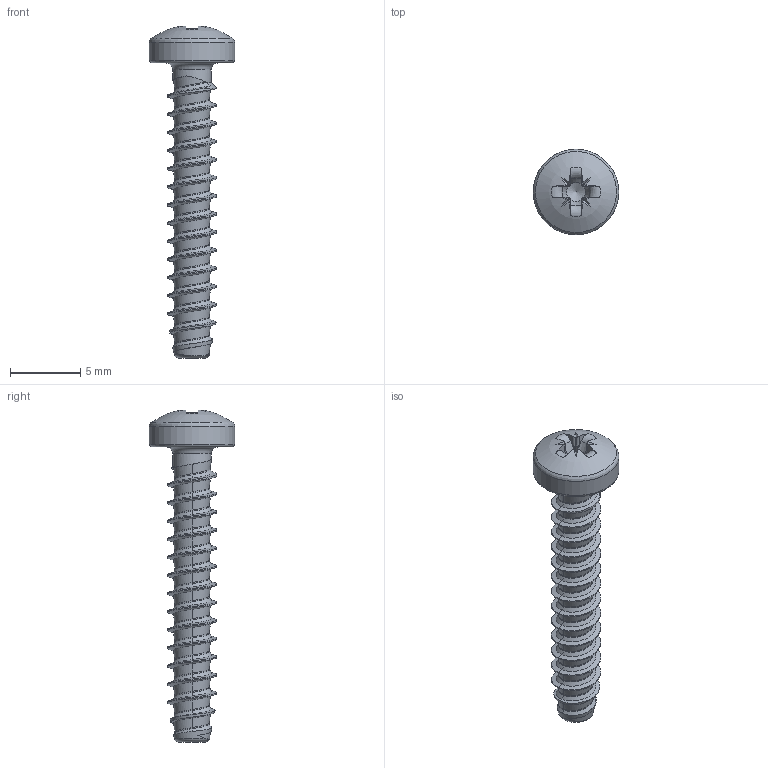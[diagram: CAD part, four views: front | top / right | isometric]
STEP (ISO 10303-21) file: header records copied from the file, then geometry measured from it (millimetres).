
FILE_DESCRIPTION(/* description */ (''),/* implementation_level */ '2;1');
FILE_NAME(/* name */ 'KN6032-STSplus-35x21-Z2.step',/* time_stamp */ '2017-10-10T15:56:26+02:00',/* author */ (''),/* organization */ (''),/* preprocessor_version */ 'ST-DEVELOPER v16',/* originating_system */ 'SIEMENS PLM Software NX 10.0',/* authorisation */ '');
FILE_SCHEMA (('AUTOMOTIVE_DESIGN { 1 0 10303 214 3 1 1 1 }'));
Length unit declared in the file: millimetre
Products named in the file (1): KN6032-STSplus-35x21-Z2
Bounding box: 6.1 x 6.1 x 23.63 mm (x, y, z)
Volume: 182.9 mm3; surface area: 359.7 mm2
Topology: 1 solids, 1 shells, 148 faces, 352 edges, 206 vertices
Faces by surface type: bspline 79, plane 42, cylinder 11, torus 8, cone 7, sphere 1
Full cylindrical faces by diameter (mm): 2.73 x1, 6.1 x1
Entity records: 8483 total; most frequent: CARTESIAN_POINT 5647, ORIENTED_EDGE 676, DIRECTION 385, EDGE_CURVE 338, VERTEX_POINT 201, EDGE_LOOP 156, ADVANCED_FACE 148, B_SPLINE_CURVE_WITH_KNOTS 148
